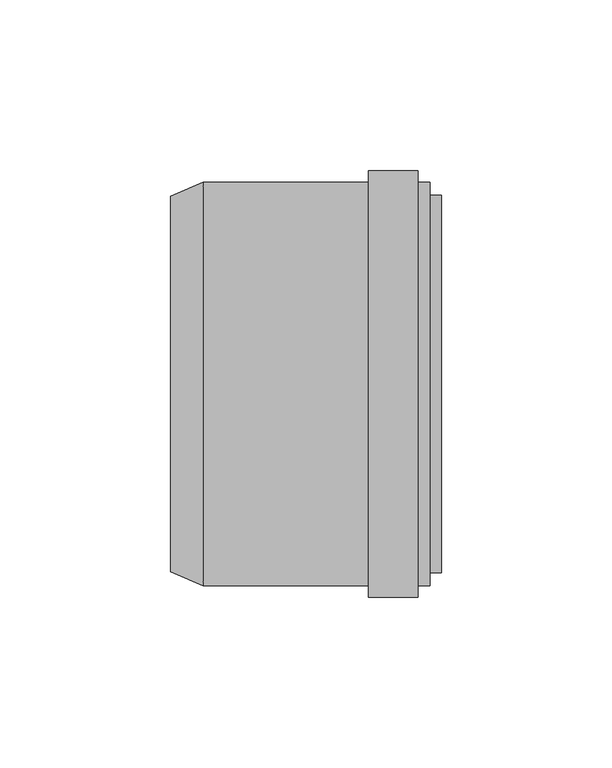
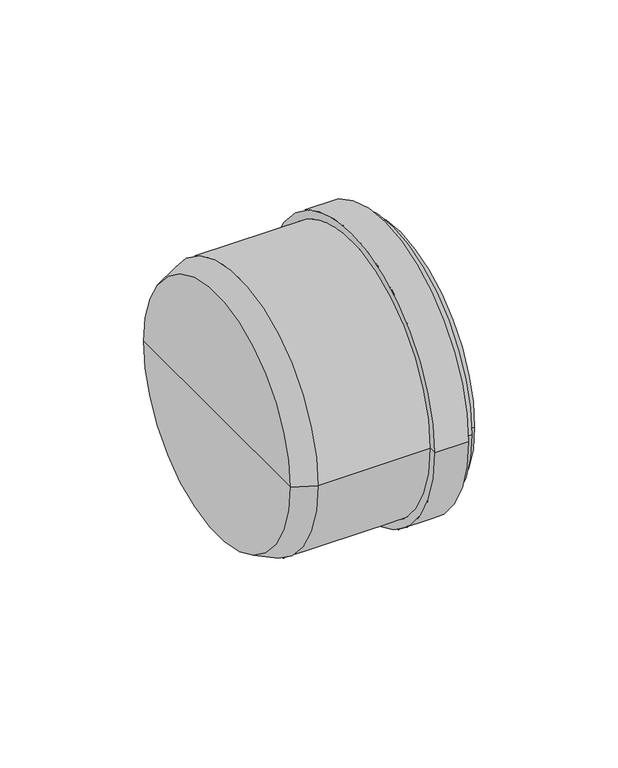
"""IFC4 building model written with IfcOpenShell, lengths in millimetres: pipe fitting geometry, pf_HTRi : pf_HTRi."""

from ifc_helpers import new_model, si_unit, frame, origin, place, context, project, spatial, polyline, circle_curve, source, transform, mapped, element, save
from ifc_brep_helpers import plane_surface, cylinder_surface, revolved_surface, advanced_brep


def pipe_fitting_1529bc69(model_context):
    return source(origin(), model_context, "Body", "AdvancedBrep", [
        advanced_brep(
        [(-79.4, -55.0, 0.0), (-79.4, 55.0, 0.0), (-69.9, 59.1, 0.0), (-69.9, -59.1, 0.0), (-79.4, 0.0, 0.0), (-3.4, -59.1, 0.0), (-3.4, 59.1, 0.0), (-3.4, 0.0, 0.0), (-6.8, -59.1, 0.0), (-6.8, 59.1, 0.0), (-6.8, -62.5, 0.0), (-6.8, 62.5, 0.0), (-21.3, -62.5, 0.0), (-21.3, 62.5, 0.0), (-21.3, -59.1, 0.0), (-21.3, 59.1, 0.0)],
        [
            (0, 1, circle_curve(frame((-79.4, 0.0, 0.0), z_axis=(1.0, 0.0, 0.0), x_axis=(0.0, 1.0, 0.0)), 55.0)),
            (1, 2),
            (2, 3, circle_curve(frame((-69.9, 0.0, 0.0), z_axis=(-1.0, 0.0, 0.0), x_axis=(0.0, 1.0, 0.0)), 59.1)),
            (3, 0),
            (1, 0, circle_curve(frame((-79.4, 0.0, 0.0), z_axis=(1.0, 0.0, 0.0), x_axis=(0.0, 1.0, 0.0)), 55.0)),
            (3, 2, circle_curve(frame((-69.9, 0.0, 0.0), z_axis=(-1.0, 0.0, 0.0), x_axis=(0.0, 1.0, 0.0)), 59.1)),
            (4, 1),
            (0, 4),
            (5, 6, circle_curve(frame((-3.4, 0.0, 0.0), z_axis=(1.0, 0.0, 0.0), x_axis=(0.0, 1.0, 0.0)), 59.1)),
            (6, 7),
            (7, 5),
            (6, 5, circle_curve(frame((-3.4, 0.0, 0.0), z_axis=(1.0, 0.0, 0.0), x_axis=(0.0, 1.0, 0.0)), 59.1)),
            (8, 9, circle_curve(frame((-6.8, 0.0, 0.0), z_axis=(1.0, 0.0, 0.0), x_axis=(0.0, 1.0, 0.0)), 59.1)),
            (9, 6),
            (5, 8),
            (9, 8, circle_curve(frame((-6.8, 0.0, 0.0), z_axis=(1.0, 0.0, 0.0), x_axis=(0.0, 1.0, 0.0)), 59.1)),
            (10, 11, circle_curve(frame((-6.8, 0.0, 0.0), z_axis=(1.0, 0.0, 0.0), x_axis=(0.0, 1.0, 0.0)), 62.5)),
            (11, 9),
            (8, 10),
            (11, 10, circle_curve(frame((-6.8, 0.0, 0.0), z_axis=(1.0, 0.0, 0.0), x_axis=(0.0, 1.0, 0.0)), 62.5)),
            (12, 13, circle_curve(frame((-21.3, 0.0, 0.0), z_axis=(1.0, 0.0, 0.0), x_axis=(0.0, 1.0, 0.0)), 62.5)),
            (13, 11),
            (10, 12),
            (13, 12, circle_curve(frame((-21.3, 0.0, 0.0), z_axis=(1.0, 0.0, 0.0), x_axis=(0.0, 1.0, 0.0)), 62.5)),
            (14, 15, circle_curve(frame((-21.3, 0.0, 0.0), z_axis=(1.0, 0.0, 0.0), x_axis=(0.0, 1.0, 0.0)), 59.1)),
            (15, 13),
            (12, 14),
            (15, 14, circle_curve(frame((-21.3, 0.0, 0.0), z_axis=(1.0, 0.0, 0.0), x_axis=(0.0, 1.0, 0.0)), 59.1)),
            (2, 15),
            (14, 3),
        ],
        [
            revolved_surface(polyline([(-69.9, 59.1, 0.0), (-79.4, 55.0, 0.0)]), (-79.4, 0.0, 0.0), (-1.0, 0.0, 0.0)),
            plane_surface(frame((-79.4, 0.0, 0.0), z_axis=(-1.0, 0.0, 0.0), x_axis=(0.0, 1.0, 0.0))),
            plane_surface(frame((-3.4, 0.0, 0.0), z_axis=(1.0, 0.0, 0.0), x_axis=(0.0, 1.0, 0.0))),
            cylinder_surface(frame((-79.4, 0.0, 0.0), z_axis=(-1.0, 0.0, 0.0), x_axis=(0.0, 1.0, 0.0)), 59.1),
            plane_surface(frame((-6.8, 0.0, 0.0), z_axis=(1.0, 0.0, 0.0), x_axis=(0.0, 1.0, 0.0))),
            cylinder_surface(frame((-79.4, 0.0, 0.0), z_axis=(-1.0, 0.0, 0.0), x_axis=(0.0, 1.0, 0.0)), 62.5),
            plane_surface(frame((-21.3, 0.0, 0.0), z_axis=(-1.0, 0.0, 0.0), x_axis=(0.0, 1.0, 0.0))),
        ],
        [
            (0, [[1, 2, 3, 4]]),
            (0, [[5, -4, 6, -2]]),
            (1, [[7, -1, 8]]),
            (1, [[-8, -5, -7]]),
            (2, [[9, 10, 11]]),
            (2, [[12, -11, -10]]),
            (3, [[13, 14, -9, 15]]),
            (3, [[16, -15, -12, -14]]),
            (4, [[17, 18, -13, 19]]),
            (4, [[20, -19, -16, -18]]),
            (5, [[21, 22, -17, 23]]),
            (5, [[24, -23, -20, -22]]),
            (6, [[25, 26, -21, 27]]),
            (6, [[28, -27, -24, -26]]),
            (3, [[-3, 29, -25, 30]]),
            (3, [[-6, -30, -28, -29]]),
        ],
    ),
        advanced_brep(
        [(-61.0, -37.5, 0.0), (-61.0, 37.5, 0.0), (-51.5, 40.6, 0.0), (-51.5, -40.6, 0.0), (-61.0, 0.0, 0.0), (0.0, -40.6, 0.0), (0.0, 40.6, 0.0), (0.0, 0.0, 0.0), (-3.4, -40.6, 0.0), (-3.4, 40.6, 0.0), (-3.4, -44.0, 0.0), (-3.4, 44.0, 0.0), (-15.0, -44.0, 0.0), (-15.0, 44.0, 0.0), (-15.0, -40.6, 0.0), (-15.0, 40.6, 0.0)],
        [
            (0, 1, circle_curve(frame((-61.0, 0.0, 0.0), z_axis=(1.0, 0.0, 0.0), x_axis=(0.0, 1.0, 0.0)), 37.5)),
            (1, 2),
            (2, 3, circle_curve(frame((-51.5, 0.0, 0.0), z_axis=(-1.0, 0.0, 0.0), x_axis=(0.0, 1.0, 0.0)), 40.6)),
            (3, 0),
            (1, 0, circle_curve(frame((-61.0, 0.0, 0.0), z_axis=(1.0, 0.0, 0.0), x_axis=(0.0, 1.0, 0.0)), 37.5)),
            (3, 2, circle_curve(frame((-51.5, 0.0, 0.0), z_axis=(-1.0, 0.0, 0.0), x_axis=(0.0, 1.0, 0.0)), 40.6)),
            (4, 1),
            (0, 4),
            (5, 6, circle_curve(frame((0.0, 0.0, 0.0), z_axis=(1.0, 0.0, 0.0), x_axis=(0.0, 1.0, 0.0)), 40.6)),
            (6, 7),
            (7, 5),
            (6, 5, circle_curve(frame((0.0, 0.0, 0.0), z_axis=(1.0, 0.0, 0.0), x_axis=(0.0, 1.0, 0.0)), 40.6)),
            (8, 9, circle_curve(frame((-3.4, 0.0, 0.0), z_axis=(1.0, 0.0, 0.0), x_axis=(0.0, 1.0, 0.0)), 40.6)),
            (9, 6),
            (5, 8),
            (9, 8, circle_curve(frame((-3.4, 0.0, 0.0), z_axis=(1.0, 0.0, 0.0), x_axis=(0.0, 1.0, 0.0)), 40.6)),
            (10, 11, circle_curve(frame((-3.4, 0.0, 0.0), z_axis=(1.0, 0.0, 0.0), x_axis=(0.0, 1.0, 0.0)), 44.0)),
            (11, 9),
            (8, 10),
            (11, 10, circle_curve(frame((-3.4, 0.0, 0.0), z_axis=(1.0, 0.0, 0.0), x_axis=(0.0, 1.0, 0.0)), 44.0)),
            (12, 13, circle_curve(frame((-15.0, 0.0, 0.0), z_axis=(1.0, 0.0, 0.0), x_axis=(0.0, 1.0, 0.0)), 44.0)),
            (13, 11),
            (10, 12),
            (13, 12, circle_curve(frame((-15.0, 0.0, 0.0), z_axis=(1.0, 0.0, 0.0), x_axis=(0.0, 1.0, 0.0)), 44.0)),
            (14, 15, circle_curve(frame((-15.0, 0.0, 0.0), z_axis=(1.0, 0.0, 0.0), x_axis=(0.0, 1.0, 0.0)), 40.6)),
            (15, 13),
            (12, 14),
            (15, 14, circle_curve(frame((-15.0, 0.0, 0.0), z_axis=(1.0, 0.0, 0.0), x_axis=(0.0, 1.0, 0.0)), 40.6)),
            (2, 15),
            (14, 3),
        ],
        [
            revolved_surface(polyline([(-51.5, 40.6, 0.0), (-61.0, 37.5, 0.0)]), (-61.0, 0.0, 0.0), (-1.0, 0.0, 0.0)),
            plane_surface(frame((-61.0, 0.0, 0.0), z_axis=(-1.0, 0.0, 0.0), x_axis=(0.0, 1.0, 0.0))),
            plane_surface(frame((0.0, 0.0, 0.0), z_axis=(1.0, 0.0, 0.0), x_axis=(0.0, 1.0, 0.0))),
            cylinder_surface(frame((-61.0, 0.0, 0.0), z_axis=(-1.0, 0.0, 0.0), x_axis=(0.0, 1.0, 0.0)), 40.6),
            plane_surface(frame((-3.4, 0.0, 0.0), z_axis=(1.0, 0.0, 0.0), x_axis=(0.0, 1.0, 0.0))),
            cylinder_surface(frame((-61.0, 0.0, 0.0), z_axis=(-1.0, 0.0, 0.0), x_axis=(0.0, 1.0, 0.0)), 44.0),
            plane_surface(frame((-15.0, 0.0, 0.0), z_axis=(-1.0, 0.0, 0.0), x_axis=(0.0, 1.0, 0.0))),
        ],
        [
            (0, [[1, 2, 3, 4]]),
            (0, [[5, -4, 6, -2]]),
            (1, [[7, -1, 8]]),
            (1, [[-8, -5, -7]]),
            (2, [[9, 10, 11]]),
            (2, [[12, -11, -10]]),
            (3, [[13, 14, -9, 15]]),
            (3, [[16, -15, -12, -14]]),
            (4, [[17, 18, -13, 19]]),
            (4, [[20, -19, -16, -18]]),
            (5, [[21, 22, -17, 23]]),
            (5, [[24, -23, -20, -22]]),
            (6, [[25, 26, -21, 27]]),
            (6, [[28, -27, -24, -26]]),
            (3, [[-3, 29, -25, 30]]),
            (3, [[-6, -30, -28, -29]]),
        ],
    ),
        advanced_brep(
        [(0.0, -42.5, 0.0), (0.0, 42.5, 0.0), (-3.4, 42.5, 0.0), (-3.4, -42.5, 0.0), (0.0, -55.3, 0.0), (0.0, 55.3, 0.0), (-3.4, -55.3, 0.0), (-3.4, 55.3, 0.0), (-3.4, -45.0, 0.0), (-3.4, 45.0, 0.0), (-8.4, -45.0, 0.0), (-8.4, 45.0, 0.0), (-8.4, 0.0, 0.0), (-3.4, 0.0, 0.0)],
        [
            (0, 1, circle_curve(frame((0.0, 0.0, 0.0), z_axis=(1.0, 0.0, 0.0), x_axis=(0.0, 1.0, 0.0)), 42.5)),
            (1, 2),
            (2, 3, circle_curve(frame((-3.4, 0.0, 0.0), z_axis=(-1.0, 0.0, 0.0), x_axis=(0.0, 1.0, 0.0)), 42.5)),
            (3, 0),
            (1, 0, circle_curve(frame((0.0, 0.0, 0.0), z_axis=(1.0, 0.0, 0.0), x_axis=(0.0, 1.0, 0.0)), 42.5)),
            (3, 2, circle_curve(frame((-3.4, 0.0, 0.0), z_axis=(-1.0, 0.0, 0.0), x_axis=(0.0, 1.0, 0.0)), 42.5)),
            (4, 5, circle_curve(frame((0.0, 0.0, 0.0), z_axis=(1.0, 0.0, 0.0), x_axis=(0.0, 1.0, 0.0)), 55.3)),
            (5, 1),
            (0, 4),
            (5, 4, circle_curve(frame((0.0, 0.0, 0.0), z_axis=(1.0, 0.0, 0.0), x_axis=(0.0, 1.0, 0.0)), 55.3)),
            (6, 7, circle_curve(frame((-3.4, 0.0, 0.0), z_axis=(1.0, 0.0, 0.0), x_axis=(0.0, 1.0, 0.0)), 55.3)),
            (7, 5),
            (4, 6),
            (7, 6, circle_curve(frame((-3.4, 0.0, 0.0), z_axis=(1.0, 0.0, 0.0), x_axis=(0.0, 1.0, 0.0)), 55.3)),
            (8, 9, circle_curve(frame((-3.4, 0.0, 0.0), z_axis=(1.0, 0.0, 0.0), x_axis=(0.0, 1.0, 0.0)), 45.0)),
            (9, 7),
            (6, 8),
            (9, 8, circle_curve(frame((-3.4, 0.0, 0.0), z_axis=(1.0, 0.0, 0.0), x_axis=(0.0, 1.0, 0.0)), 45.0)),
            (10, 11, circle_curve(frame((-8.4, 0.0, 0.0), z_axis=(1.0, 0.0, 0.0), x_axis=(0.0, 1.0, 0.0)), 45.0)),
            (11, 9),
            (8, 10),
            (11, 10, circle_curve(frame((-8.4, 0.0, 0.0), z_axis=(1.0, 0.0, 0.0), x_axis=(0.0, 1.0, 0.0)), 45.0)),
            (12, 11),
            (10, 12),
            (2, 13),
            (13, 3),
        ],
        [
            revolved_surface(polyline([(-3.3999999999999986, 42.5, 0.0), (0.0, 42.5, 0.0)]), (-40.7726917, 0.0, 0.0), (-1.0, 0.0, 0.0)),
            plane_surface(frame((0.0, 0.0, 0.0), z_axis=(1.0, 0.0, 0.0), x_axis=(0.0, 1.0, 0.0))),
            cylinder_surface(frame((-40.7726917, 0.0, 0.0), z_axis=(-1.0, 0.0, 0.0), x_axis=(0.0, 1.0, 0.0)), 55.3),
            plane_surface(frame((-3.4, 0.0, 0.0), z_axis=(-1.0, 0.0, 0.0), x_axis=(0.0, 1.0, 0.0))),
            cylinder_surface(frame((-40.7726917, 0.0, 0.0), z_axis=(-1.0, 0.0, 0.0), x_axis=(0.0, 1.0, 0.0)), 45.0),
            plane_surface(frame((-8.4, 0.0, 0.0), z_axis=(-1.0, 0.0, 0.0), x_axis=(0.0, 1.0, 0.0))),
            plane_surface(frame((-3.4, 0.0, 0.0), z_axis=(1.0, 0.0, 0.0), x_axis=(0.0, 1.0, 0.0))),
        ],
        [
            (0, [[1, 2, 3, 4]]),
            (0, [[5, -4, 6, -2]]),
            (1, [[7, 8, -1, 9]]),
            (1, [[10, -9, -5, -8]]),
            (2, [[11, 12, -7, 13]]),
            (2, [[14, -13, -10, -12]]),
            (3, [[15, 16, -11, 17]]),
            (3, [[18, -17, -14, -16]]),
            (4, [[19, 20, -15, 21]]),
            (4, [[22, -21, -18, -20]]),
            (5, [[23, -19, 24]]),
            (5, [[-24, -22, -23]]),
            (6, [[-3, 25, 26]]),
            (6, [[-6, -26, -25]]),
        ],
    ),
    ])


if __name__ == "__main__":
    model = new_model("IFC4")
    model_context = context("Model", 3, world=origin())
    ifc_project = project(units=[si_unit("LENGTHUNIT", "METRE", prefix="MILLI")], contexts=[model_context])
    site = spatial("IfcSite", under=ifc_project)
    building = spatial("IfcBuilding", under=site)
    placement = place(None, origin())
    pipe_fitting_shape = pipe_fitting_1529bc69(model_context)
    element("IfcPipeFitting", 1, ObjectType="pf_HTRi : pf_HTRi", at=placement, inside=building, context=model_context, shape_type="MappedRepresentation", body=[
        mapped(pipe_fitting_shape, transform((0.0, 0.0, 0.0), x_axis=(1.0, 0.0, 0.0), y_axis=(0.0, 1.0, 0.0), z_axis=(0.0, 0.0, 1.0))),
    ])
    save(model, "model.ifc")
